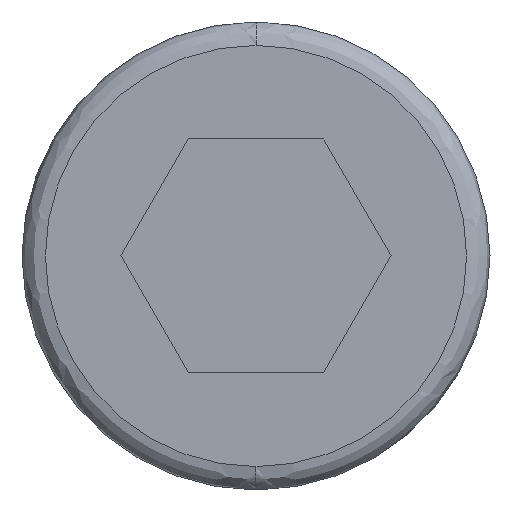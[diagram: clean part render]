
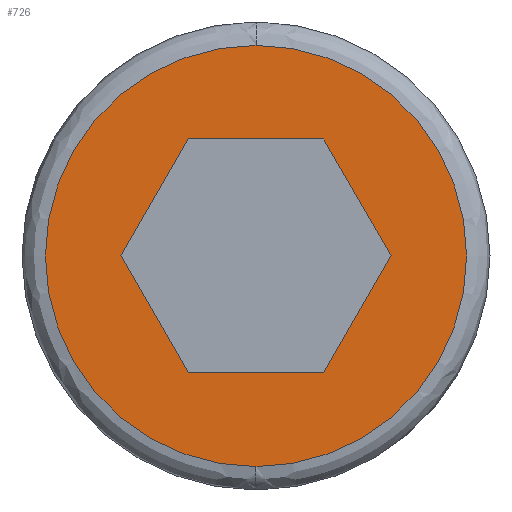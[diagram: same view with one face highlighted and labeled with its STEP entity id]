
A CAD part, left-side view. The second image highlights one B-rep face of the part: STEP entity #726.
In plain terms, the highlighted planar face has unit normal (-1, 0, 0).
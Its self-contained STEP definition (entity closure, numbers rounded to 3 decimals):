
#4 = CARTESIAN_POINT ( 'NONE',  ( -45.2, 28., 85.5 ) ) ;
#19 = LINE ( 'NONE', #278, #639 ) ;
#56 = VECTOR ( 'NONE', #180, 1000. ) ;
#96 = CARTESIAN_POINT ( 'NONE',  ( -45.2, 26.557, 78.5 ) ) ;
#107 = VECTOR ( 'NONE', #633, 1000. ) ;
#141 = PLANE ( 'NONE',  #279 ) ;
#146 = DIRECTION ( 'NONE',  ( 0., 0.5, 0.866 ) ) ;
#149 = LINE ( 'NONE', #480, #107 ) ;
#151 = CARTESIAN_POINT ( 'NONE',  ( -45.2, 30.25, 81. ) ) ;
#165 = CARTESIAN_POINT ( 'NONE',  ( -45.2, 29.443, 78.5 ) ) ;
#180 = DIRECTION ( 'NONE',  ( 0., -1., 0. ) ) ;
#197 = ORIENTED_EDGE ( 'NONE', *, *, #685, .T. ) ;
#200 = CARTESIAN_POINT ( 'NONE',  ( -45.2, 28.403, 78.5 ) ) ;
#209 = ORIENTED_EDGE ( 'NONE', *, *, #282, .F. ) ;
#212 = CARTESIAN_POINT ( 'NONE',  ( -45.2, 28., 76.5 ) ) ;
#224 = AXIS2_PLACEMENT_3D ( 'NONE', #792, #384, #251 ) ;
#231 = ORIENTED_EDGE ( 'NONE', *, *, #342, .F. ) ;
#251 = DIRECTION ( 'NONE',  ( 0., 1., 0. ) ) ;
#257 = LINE ( 'NONE', #200, #435 ) ;
#278 = CARTESIAN_POINT ( 'NONE',  ( -45.2, 25.755, 79.888 ) ) ;
#279 = AXIS2_PLACEMENT_3D ( 'NONE', #151, #688, #392 ) ;
#282 = EDGE_CURVE ( 'NONE', #784, #511, #838, .T. ) ;
#295 = VERTEX_POINT ( 'NONE', #96 ) ;
#303 = VERTEX_POINT ( 'NONE', #636 ) ;
#314 = EDGE_CURVE ( 'NONE', #713, #572, #698, .T. ) ;
#324 = VERTEX_POINT ( 'NONE', #165 ) ;
#333 = ORIENTED_EDGE ( 'NONE', *, *, #645, .T. ) ;
#340 = EDGE_LOOP ( 'NONE', ( #231, #209 ) ) ;
#342 = EDGE_CURVE ( 'NONE', #511, #784, #508, .T. ) ;
#362 = ORIENTED_EDGE ( 'NONE', *, *, #760, .T. ) ;
#363 = CARTESIAN_POINT ( 'NONE',  ( -45.2, 26.477, 83.362 ) ) ;
#374 = AXIS2_PLACEMENT_3D ( 'NONE', #834, #434, #493 ) ;
#384 = DIRECTION ( 'NONE',  ( 1., 0., 0. ) ) ;
#392 = DIRECTION ( 'NONE',  ( 0., 0., 1. ) ) ;
#398 = LINE ( 'NONE', #419, #586 ) ;
#407 = CARTESIAN_POINT ( 'NONE',  ( -45.2, 26.557, 83.5 ) ) ;
#419 = CARTESIAN_POINT ( 'NONE',  ( -45.2, 30.085, 79.612 ) ) ;
#424 = EDGE_CURVE ( 'NONE', #647, #303, #149, .T. ) ;
#434 = DIRECTION ( 'NONE',  ( 1., 0., 0. ) ) ;
#435 = VECTOR ( 'NONE', #805, 1000. ) ;
#480 = CARTESIAN_POINT ( 'NONE',  ( -45.2, 30.807, 81.138 ) ) ;
#488 = ORIENTED_EDGE ( 'NONE', *, *, #424, .T. ) ;
#493 = DIRECTION ( 'NONE',  ( 0., 1., 0. ) ) ;
#508 = CIRCLE ( 'NONE', #374, 4.5 ) ;
#511 = VERTEX_POINT ( 'NONE', #212 ) ;
#518 = CARTESIAN_POINT ( 'NONE',  ( -45.2, 25.113, 81. ) ) ;
#519 = LINE ( 'NONE', #729, #56 ) ;
#549 = FACE_OUTER_BOUND ( 'NONE', #340, .T. ) ;
#566 = DIRECTION ( 'NONE',  ( 0., -0.5, -0.866 ) ) ;
#572 = VERTEX_POINT ( 'NONE', #518 ) ;
#586 = VECTOR ( 'NONE', #146, 1000. ) ;
#600 = VECTOR ( 'NONE', #566, 1000. ) ;
#602 = EDGE_CURVE ( 'NONE', #295, #324, #257, .T. ) ;
#631 = ORIENTED_EDGE ( 'NONE', *, *, #314, .T. ) ;
#633 = DIRECTION ( 'NONE',  ( 0., -0.5, 0.866 ) ) ;
#636 = CARTESIAN_POINT ( 'NONE',  ( -45.2, 29.443, 83.5 ) ) ;
#639 = VECTOR ( 'NONE', #794, 1000. ) ;
#645 = EDGE_CURVE ( 'NONE', #572, #295, #19, .T. ) ;
#647 = VERTEX_POINT ( 'NONE', #811 ) ;
#685 = EDGE_CURVE ( 'NONE', #324, #647, #398, .T. ) ;
#688 = DIRECTION ( 'NONE',  ( -1., 0., 0. ) ) ;
#698 = LINE ( 'NONE', #363, #600 ) ;
#713 = VERTEX_POINT ( 'NONE', #407 ) ;
#726 = ADVANCED_FACE ( 'NONE', ( #549, #756 ), #141, .T. ) ;
#729 = CARTESIAN_POINT ( 'NONE',  ( -45.2, 29.847, 83.5 ) ) ;
#756 = FACE_BOUND ( 'NONE', #866, .T. ) ;
#760 = EDGE_CURVE ( 'NONE', #303, #713, #519, .T. ) ;
#781 = ORIENTED_EDGE ( 'NONE', *, *, #602, .T. ) ;
#784 = VERTEX_POINT ( 'NONE', #4 ) ;
#792 = CARTESIAN_POINT ( 'NONE',  ( -45.2, 28., 81. ) ) ;
#794 = DIRECTION ( 'NONE',  ( 0., 0.5, -0.866 ) ) ;
#805 = DIRECTION ( 'NONE',  ( 0., 1., 0. ) ) ;
#811 = CARTESIAN_POINT ( 'NONE',  ( -45.2, 30.887, 81. ) ) ;
#834 = CARTESIAN_POINT ( 'NONE',  ( -45.2, 28., 81. ) ) ;
#838 = CIRCLE ( 'NONE', #224, 4.5 ) ;
#866 = EDGE_LOOP ( 'NONE', ( #631, #333, #781, #197, #488, #362 ) ) ;
